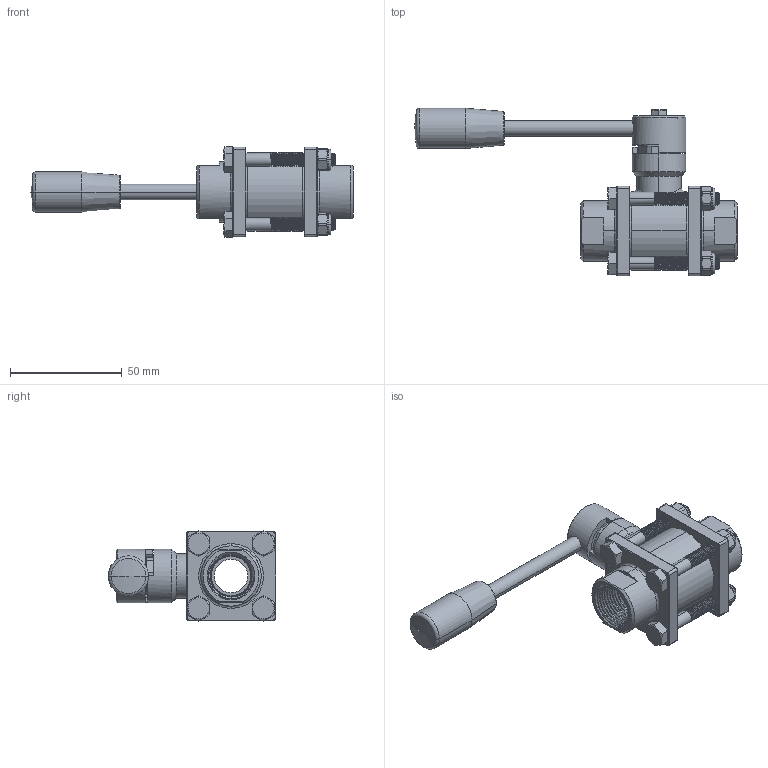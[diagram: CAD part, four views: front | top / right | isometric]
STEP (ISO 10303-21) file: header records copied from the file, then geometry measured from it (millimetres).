
FILE_DESCRIPTION((''),'2;1');
FILE_NAME('50010461410','2024-04-05T15:36:22',('alfio.taboni'),('CDM Tecnoconsulting'),'CREO PARAMETRIC BY PTC INC, 2023374','CREO PARAMETRIC BY PTC INC, 2023374','');
FILE_SCHEMA(('CONFIG_CONTROL_DESIGN','SHAPE_APPEARANCE_LAYERS_GROUPS'));
Length unit declared in the file: millimetre
Products named in the file (1): 50010461410
Bounding box: 144.3 x 74.95 x 40.54 mm (x, y, z)
Volume: 73224.8 mm3; surface area: 39571.4 mm2
Topology: 2 solids, 2 shells, 1417 faces, 3806 edges, 2423 vertices
Faces by surface type: cylinder 440, plane 422, cone 221, bspline 156, extrusion 150, torus 22, sphere 6
Entity records: 156244 total; most frequent: CARTESIAN_POINT 112005, ORIENTED_EDGE 7580, DIRECTION 5443, PRESENTATION_STYLE_ASSIGNMENT 3810, STYLED_ITEM 3792, CURVE_STYLE 3790, EDGE_CURVE 3790, VERTEX_POINT 2423
